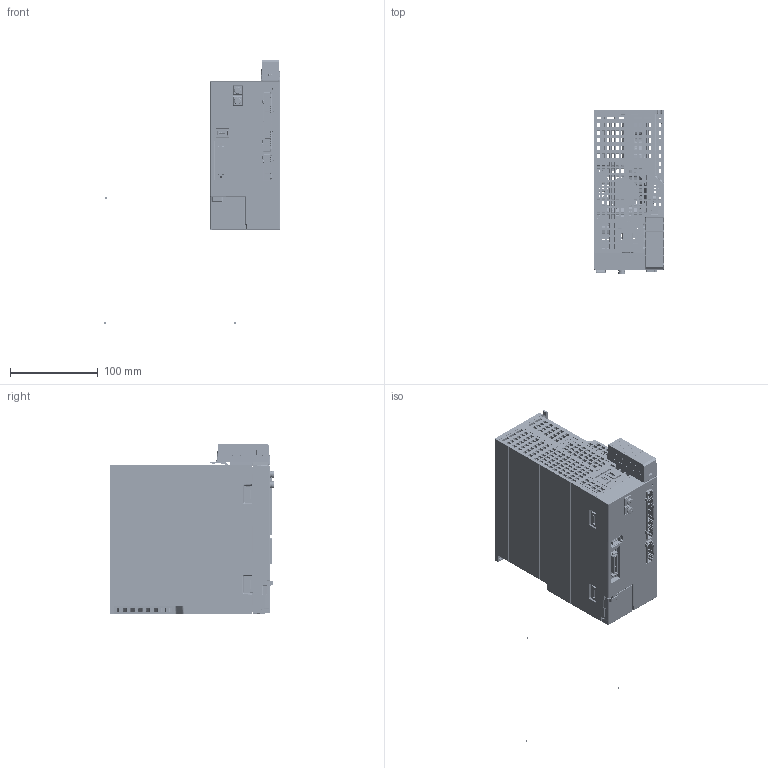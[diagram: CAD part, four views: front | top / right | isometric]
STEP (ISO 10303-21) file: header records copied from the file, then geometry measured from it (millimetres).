
FILE_DESCRIPTION((''),'2;1');
FILE_NAME('FD445P-ASSEMBLY_DRAWING_1V0_ASM','2024-11-27T09:41:37',('唐'),(''),'CREO PARAMETRIC BY PTC INC, 2016510','CREO PARAMETRIC BY PTC INC, 2016510','');
FILE_SCHEMA(('CONFIG_CONTROL_DESIGN'));
Products named in the file (83): FD445P-A_476; F9C-7-7_5-09P_431; 09P_ASM_431_ASM; F9C-7-7_5-04P_431; 04P_ASM_432_ASM; 00-FD445P-PCB-A_ASM_493_ASM; FD435P-B_485; SCSI_FEMALE1_430; MALE_ASM_432_ASM; CON_1394_90_430; CON-1394_ASM_431_ASM; USER_LIBRARY-USB-MINI-B_1_430; USB-MIN_ASM_1_ASM_430_ASM; USB-MIN_ASM_ASM_430_ASM; CON_NETWORK_PORT_430; 00-FD435P-PCB-B_ASM_450_ASM; PCB2_FD5P_X_394; LCD_MONITOR_392; SWITCH_392; ESL-SWITCH_392; UID__9223372036858032040_396; PLACEMENTOUTLINE-220_396; SUBMODEL-NOMODELFORPART_PAD_MAR_ASM; SUBMODEL-PAD_MARK_D1-2_26842355_ASM; PLACEMENTOUTLINE-242_396; SUBMODEL-NOMODELFORPART_0603R_1_ASM; SUBMODEL-0603R_2649737726_PAR_1_ASM; PLACEMENTOUTLINE-294_396; SUBMODEL-NOMODELFORPART_0603C_2_ASM; SUBMODEL-0603C_3616801500_PAR_1_ASM; PLACEMENTOUTLINE-320_396; SUBMODEL-NOMODELFORPART_1608X4__ASM; SUBMODEL-1608X4_3186176938_PART_ASM; PLACEMENTOUTLINE-346_396; SUBMODEL-NOMODELFORPART_SW_CO_1_ASM; SUBMODEL-SW_CODE8_P127X762L1130_ASM; PLACEMENTOUTLINE-370_396; PLACEMENTOUTLINE-378_396; SUBMODEL-NOMODELFORPART_SW_KB_P_ASM; SUBMODEL-SW_KB_P30X90L45W45H29__ASM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
Assembly tree (111 placements, depth 9):
  FD445P-ASSEMBLY_DRAWING_1V0_ASM
    000-FD445P-AYYED_ASM_1070_ASM
      00-FD445P-PCB-A_ASM_493_ASM
        FD445P-A_476
        09P_ASM_431_ASM
          F9C-7-7_5-09P_431
        04P_ASM_432_ASM
          F9C-7-7_5-04P_431
      00-FD435P-PCB-B_ASM_450_ASM
        FD435P-B_485
        MALE_ASM_432_ASM
          SCSI_FEMALE1_430
        CON-1394_ASM_431_ASM
          CON_1394_90_430
        USB-MIN_ASM_ASM_430_ASM
          USB-MIN_ASM_1_ASM_430_ASM
            USER_LIBRARY-USB-MINI-B_1_430
        CON_NETWORK_PORT_430
      ASSY_PCB2_FD5P_ASM_396_ASM
        PCB2_FD5P_X_394
        LCD_MONITOR_392
        SWITCH_392  x4
        ESL-SWITCH_392
        FD435P_C_0V1-20231120_ASM_218_ASM
          FD435P_C_0V1-20231120_1_ASM_218_ASM
            DESIGNROOTMODEL_1_ASM_283_ASM
              UID__9223372036858032040_396
              SUBMODEL-PAD_MARK_D1-2_26842355_ASM  x7
                SUBMODEL-NOMODELFORPART_PAD_MAR_ASM
                  PLACEMENTOUTLINE-220_396
              SUBMODEL-0603R_2649737726_PAR_1_ASM  x12
                SUBMODEL-NOMODELFORPART_0603R_1_ASM
                  PLACEMENTOUTLINE-242_396
              SUBMODEL-0603C_3616801500_PAR_1_ASM  x4
                SUBMODEL-NOMODELFORPART_0603C_2_ASM
                  PLACEMENTOUTLINE-294_396
              SUBMODEL-1608X4_3186176938_PART_ASM  x2
                SUBMODEL-NOMODELFORPART_1608X4__ASM
                  PLACEMENTOUTLINE-320_396
              SUBMODEL-SW_CODE8_P127X762L1130_ASM
                SUBMODEL-NOMODELFORPART_SW_CO_1_ASM
                  PLACEMENTOUTLINE-346_396
              SUBMODEL-SW_KB_P30X90L45W45H29__ASM  x4
                SUBMODEL-NOMODELFORPART_SW_KB_P_ASM
                  PLACEMENTOUTLINE-370_396
                  PLACEMENTOUTLINE-378_396
              SUBMODEL-FINGER_8X2_P220_TB_281_ASM
                SUBMODEL-NOMODELFORPART_FINGER__ASM
                  PLACEMENTOUTLINE-400_396
              SUBMODEL-LED0603_L16W08H06_1549_ASM  x2
                SUBMODEL-NOMODELFORPART_LED0603_ASM
                  PLACEMENTOUTLINE-422_396
              SUBMODEL-LED_8X5P254X762L230W10_ASM
                SUBMODEL-NOMODELFORPART_LED_8X5_ASM
                  PLACEMENTOUTLINE-446_396
      FD445P-HT_ASM_179_ASM
        FD445P-HT_MOULD_20240312_521
        FD445P-3D-R-05-150001_61
      FD445P-FRONT-PANEL_ASM_168_ASM
        FD445P-FRONT_20240311_129
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Bounding box: 201.35 x 188 x 301.54 mm (x, y, z)
Volume: 539486.9 mm3; surface area: 1031112.9 mm2
Topology: 74 solids, 84 shells, 20233 faces, 55412 edges, 35368 vertices
Faces by surface type: plane 13781, cylinder 3894, bspline 1517, torus 377, cone 375, sphere 266, extrusion 23
Entity records: 680533 total; most frequent: CARTESIAN_POINT 188850, ORIENTED_EDGE 107732, DIRECTION 91171, EDGE_CURVE 53885, VECTOR 41595, LINE 41572, VERTEX_POINT 34592, AXIS2_PLACEMENT_3D 24788
